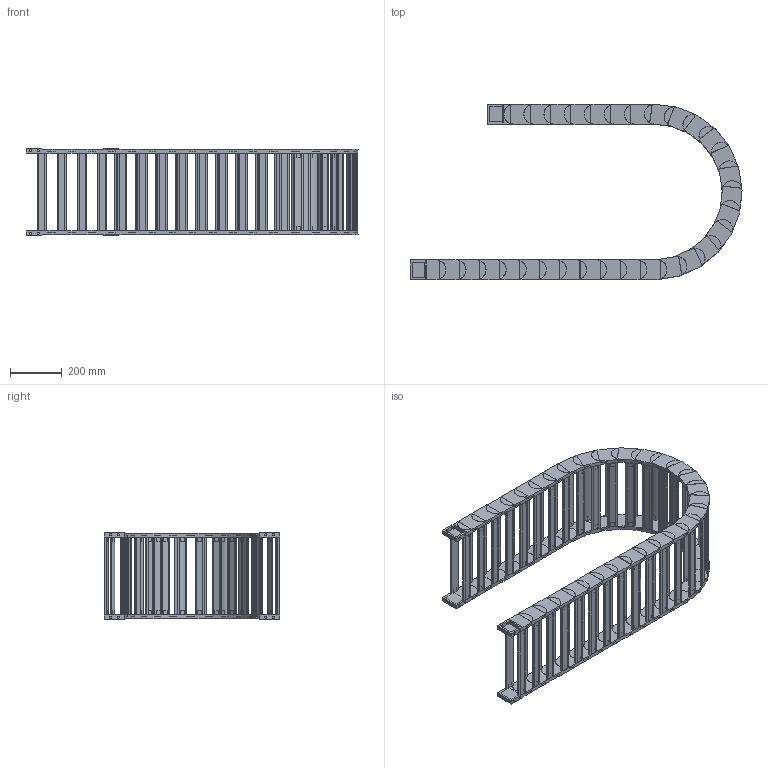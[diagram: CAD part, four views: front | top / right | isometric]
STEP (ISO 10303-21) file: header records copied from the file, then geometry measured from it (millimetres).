
FILE_DESCRIPTION((''),'2;1');
FILE_NAME('HD55-R300-ZPT_ASM','2022-06-17T19:13:52',('admin'),(''),'CREO PARAMETRIC BY PTC INC, 2021164','CREO PARAMETRIC BY PTC INC, 2021164','');
FILE_SCHEMA(('CONFIG_CONTROL_DESIGN','GEOMETRIC_VALIDATION_PROPERTIES_MIM'));
Length unit declared in the file: millimetre
Products named in the file (6): HD-55; 55-500001; HD55_ASM; H55-T1; H55-T2; HD55-R300-ZPT_ASM
Assembly tree (36 placements, depth 3):
  HD55-R300-ZPT_ASM
    HD55_ASM  x30
      HD-55
      55-500001
    H55-T1
    H55-T2
    55-500001  x2
Bounding box: 1280.44 x 675.83 x 332.8 mm (x, y, z)
Volume: 11378269.1 mm3; surface area: 3422863 mm2
Topology: 128 solids, 128 shells, 2110 faces, 5414 edges, 3692 vertices
Faces by surface type: plane 1748, cylinder 362
Entity records: 8855 total; most frequent: CARTESIAN_POINT 1308, DIRECTION 1270, ORIENTED_EDGE 1172, EDGE_CURVE 586, AXIS2_PLACEMENT_3D 426, VECTOR 418, LINE 418, VERTEX_POINT 396
